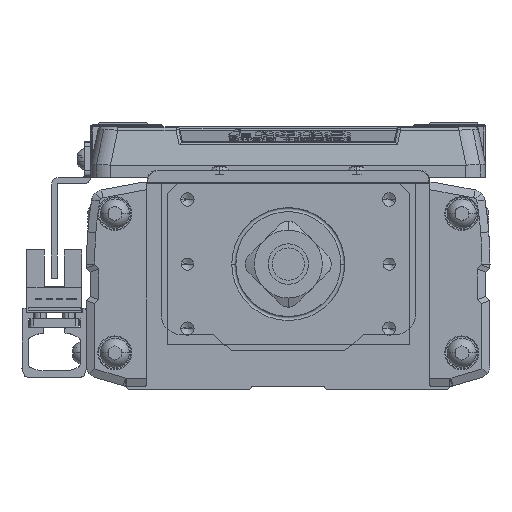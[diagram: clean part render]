
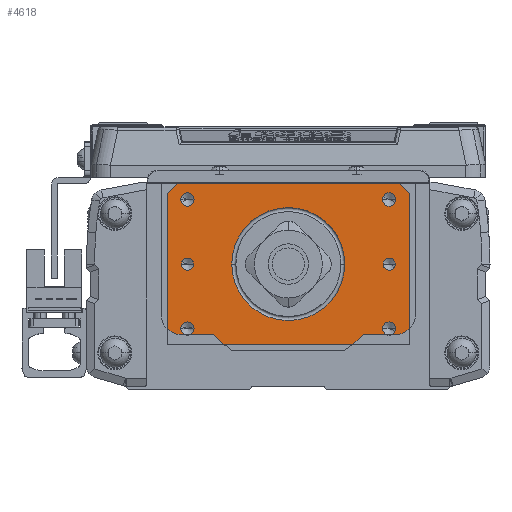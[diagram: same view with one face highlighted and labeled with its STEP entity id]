
A CAD part, left-side view. The second image highlights one B-rep face of the part: STEP entity #4618.
In plain terms, the highlighted planar face has unit normal (-1, 0, 0).
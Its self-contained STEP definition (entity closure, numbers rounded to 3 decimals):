
#4618=ADVANCED_FACE('',(#10566,#10567,#10568,#10569,#10570,#10571,#10572,#10573),#10574,.T.);
#10566=FACE_BOUND('',#18283,.T.);
#10567=FACE_BOUND('',#18284,.T.);
#10568=FACE_BOUND('',#18285,.T.);
#10569=FACE_BOUND('',#18286,.T.);
#10570=FACE_BOUND('',#18287,.T.);
#10571=FACE_BOUND('',#18288,.T.);
#10572=FACE_BOUND('',#18289,.T.);
#10573=FACE_OUTER_BOUND('',#18290,.T.);
#10574=PLANE('',#18291);
#18283=EDGE_LOOP('',(#31511,#31512));
#18284=EDGE_LOOP('',(#31513,#31514));
#18285=EDGE_LOOP('',(#31515,#31516));
#18286=EDGE_LOOP('',(#31517,#31518));
#18287=EDGE_LOOP('',(#31519,#31520));
#18288=EDGE_LOOP('',(#31521,#31522));
#18289=EDGE_LOOP('',(#31523,#31524,#31525));
#18290=EDGE_LOOP('',(#31526,#31527,#31528,#31529,#31530,#31531));
#18291=AXIS2_PLACEMENT_3D('',#31532,#31533,#31534);
#31511=ORIENTED_EDGE('',*,*,#49326,.T.);
#31512=ORIENTED_EDGE('',*,*,#49327,.T.);
#31513=ORIENTED_EDGE('',*,*,#49328,.T.);
#31514=ORIENTED_EDGE('',*,*,#49295,.T.);
#31515=ORIENTED_EDGE('',*,*,#49329,.T.);
#31516=ORIENTED_EDGE('',*,*,#49330,.T.);
#31517=ORIENTED_EDGE('',*,*,#49331,.T.);
#31518=ORIENTED_EDGE('',*,*,#45207,.T.);
#31519=ORIENTED_EDGE('',*,*,#49332,.T.);
#31520=ORIENTED_EDGE('',*,*,#48477,.T.);
#31521=ORIENTED_EDGE('',*,*,#49333,.T.);
#31522=ORIENTED_EDGE('',*,*,#49334,.T.);
#31523=ORIENTED_EDGE('',*,*,#45744,.T.);
#31524=ORIENTED_EDGE('',*,*,#49335,.T.);
#31525=ORIENTED_EDGE('',*,*,#45745,.T.);
#31526=ORIENTED_EDGE('',*,*,#49336,.F.);
#31527=ORIENTED_EDGE('',*,*,#49337,.F.);
#31528=ORIENTED_EDGE('',*,*,#49338,.T.);
#31529=ORIENTED_EDGE('',*,*,#47609,.T.);
#31530=ORIENTED_EDGE('',*,*,#49339,.F.);
#31531=ORIENTED_EDGE('',*,*,#49340,.T.);
#31532=CARTESIAN_POINT('',(-580.,0.,-20.));
#31533=DIRECTION('',(-1.0,0.,0.));
#31534=DIRECTION('',(0.,-1.0,0.));
#45207=EDGE_CURVE('',#54105,#54102,#54106,.T.);
#45744=EDGE_CURVE('',#55067,#55065,#55068,.T.);
#45745=EDGE_CURVE('',#55069,#55067,#55070,.T.);
#47609=EDGE_CURVE('',#58195,#58192,#58196,.T.);
#48477=EDGE_CURVE('',#59549,#59546,#59550,.T.);
#49295=EDGE_CURVE('',#60776,#60773,#60777,.T.);
#49326=EDGE_CURVE('',#60823,#60824,#60825,.T.);
#49327=EDGE_CURVE('',#60824,#60823,#60826,.T.);
#49328=EDGE_CURVE('',#60773,#60776,#60827,.T.);
#49329=EDGE_CURVE('',#60828,#60829,#60830,.T.);
#49330=EDGE_CURVE('',#60829,#60828,#60831,.T.);
#49331=EDGE_CURVE('',#54102,#54105,#60832,.T.);
#49332=EDGE_CURVE('',#59546,#59549,#60833,.T.);
#49333=EDGE_CURVE('',#60834,#60835,#60836,.T.);
#49334=EDGE_CURVE('',#60835,#60834,#60837,.T.);
#49335=EDGE_CURVE('',#55065,#55069,#60838,.T.);
#49336=EDGE_CURVE('',#60839,#60840,#60841,.T.);
#49337=EDGE_CURVE('',#60842,#60839,#60843,.T.);
#49338=EDGE_CURVE('',#60842,#58195,#60844,.T.);
#49339=EDGE_CURVE('',#60845,#58192,#60846,.T.);
#49340=EDGE_CURVE('',#60845,#60840,#60847,.T.);
#54102=VERTEX_POINT('',#66825);
#54105=VERTEX_POINT('',#66829);
#54106=CIRCLE('',#66830,1.65);
#55065=VERTEX_POINT('',#68158);
#55067=VERTEX_POINT('',#68160);
#55068=CIRCLE('',#68161,14.0);
#55069=VERTEX_POINT('',#68162);
#55070=CIRCLE('',#68163,14.0);
#58192=VERTEX_POINT('',#72531);
#58195=VERTEX_POINT('',#72535);
#58196=LINE('',#72536,#72537);
#59546=VERTEX_POINT('',#74601);
#59549=VERTEX_POINT('',#74605);
#59550=CIRCLE('',#74606,1.65);
#60773=VERTEX_POINT('',#76304);
#60776=VERTEX_POINT('',#76308);
#60777=CIRCLE('',#76309,1.5);
#60823=VERTEX_POINT('',#76375);
#60824=VERTEX_POINT('',#76376);
#60825=CIRCLE('',#76377,1.5);
#60826=CIRCLE('',#76378,1.5);
#60827=CIRCLE('',#76379,1.5);
#60828=VERTEX_POINT('',#76380);
#60829=VERTEX_POINT('',#76381);
#60830=CIRCLE('',#76382,1.65);
#60831=CIRCLE('',#76383,1.65);
#60832=CIRCLE('',#76384,1.65);
#60833=CIRCLE('',#76385,1.65);
#60834=VERTEX_POINT('',#76386);
#60835=VERTEX_POINT('',#76387);
#60836=CIRCLE('',#76388,1.65);
#60837=CIRCLE('',#76389,1.65);
#60838=CIRCLE('',#76390,14.0);
#60839=VERTEX_POINT('',#76391);
#60840=VERTEX_POINT('',#76392);
#60841=LINE('',#76393,#76394);
#60842=VERTEX_POINT('',#76395);
#60843=LINE('',#76396,#76397);
#60844=LINE('',#76398,#76399);
#60845=VERTEX_POINT('',#76400);
#60846=LINE('',#76401,#76402);
#60847=LINE('',#76403,#76404);
#66825=CARTESIAN_POINT('',(-580.,26.65,-16.));
#66829=CARTESIAN_POINT('',(-580.,23.35,-16.));
#66830=AXIS2_PLACEMENT_3D('',#83470,#83471,#83472);
#68158=CARTESIAN_POINT('',(-580.,14.,0.));
#68160=CARTESIAN_POINT('',(-580.,0.,-14.));
#68161=AXIS2_PLACEMENT_3D('',#84205,#84206,#84207);
#68162=CARTESIAN_POINT('',(-580.,-14.,0.));
#68163=AXIS2_PLACEMENT_3D('',#84208,#84209,#84210);
#72531=CARTESIAN_POINT('',(-580.,-30.,17.5));
#72535=CARTESIAN_POINT('',(-580.,-30.,-20.));
#72536=CARTESIAN_POINT('',(-580.,-30.,-20.));
#72537=VECTOR('',#86782,10.0);
#74601=CARTESIAN_POINT('',(-580.,26.65,16.));
#74605=CARTESIAN_POINT('',(-580.,23.35,16.));
#74606=AXIS2_PLACEMENT_3D('',#87901,#87902,#87903);
#76304=CARTESIAN_POINT('',(-580.,26.5,0.));
#76308=CARTESIAN_POINT('',(-580.,23.5,0.));
#76309=AXIS2_PLACEMENT_3D('',#88976,#88977,#88978);
#76375=CARTESIAN_POINT('',(-580.,-26.5,0.));
#76376=CARTESIAN_POINT('',(-580.,-23.5,0.));
#76377=AXIS2_PLACEMENT_3D('',#89005,#89006,#89007);
#76378=AXIS2_PLACEMENT_3D('',#89008,#89009,#89010);
#76379=AXIS2_PLACEMENT_3D('',#89011,#89012,#89013);
#76380=CARTESIAN_POINT('',(-580.,-26.65,-16.));
#76381=CARTESIAN_POINT('',(-580.,-23.35,-16.));
#76382=AXIS2_PLACEMENT_3D('',#89014,#89015,#89016);
#76383=AXIS2_PLACEMENT_3D('',#89017,#89018,#89019);
#76384=AXIS2_PLACEMENT_3D('',#89020,#89021,#89022);
#76385=AXIS2_PLACEMENT_3D('',#89023,#89024,#89025);
#76386=CARTESIAN_POINT('',(-580.,-26.65,16.));
#76387=CARTESIAN_POINT('',(-580.,-23.35,16.));
#76388=AXIS2_PLACEMENT_3D('',#89026,#89027,#89028);
#76389=AXIS2_PLACEMENT_3D('',#89029,#89030,#89031);
#76390=AXIS2_PLACEMENT_3D('',#89032,#89033,#89034);
#76391=CARTESIAN_POINT('',(-580.,30.,17.5));
#76392=CARTESIAN_POINT('',(-580.,27.5,20.));
#76393=CARTESIAN_POINT('',(-580.,31.25,16.25));
#76394=VECTOR('',#89035,10.);
#76395=CARTESIAN_POINT('',(-580.,30.,-20.));
#76396=CARTESIAN_POINT('',(-580.,30.,-20.));
#76397=VECTOR('',#89036,10.0);
#76398=CARTESIAN_POINT('',(-580.,30.,-20.));
#76399=VECTOR('',#89037,10.0);
#76400=CARTESIAN_POINT('',(-580.,-27.5,20.));
#76401=CARTESIAN_POINT('',(-580.,-31.25,16.25));
#76402=VECTOR('',#89038,10.);
#76403=CARTESIAN_POINT('',(-580.,30.,20.));
#76404=VECTOR('',#89039,10.0);
#83470=CARTESIAN_POINT('',(-580.,25.,-16.));
#83471=DIRECTION('',(1.0,0.,0.));
#83472=DIRECTION('',(0.,1.0,0.));
#84205=CARTESIAN_POINT('',(-580.,0.,0.));
#84206=DIRECTION('',(1.0,0.,0.));
#84207=DIRECTION('',(0.,0.,1.0));
#84208=CARTESIAN_POINT('',(-580.,0.,0.));
#84209=DIRECTION('',(1.0,0.,0.));
#84210=DIRECTION('',(0.,0.,1.0));
#86782=DIRECTION('',(0.,0.,1.0));
#87901=CARTESIAN_POINT('',(-580.,25.,16.));
#87902=DIRECTION('',(1.0,0.,0.));
#87903=DIRECTION('',(0.,1.0,0.));
#88976=CARTESIAN_POINT('',(-580.,25.,0.));
#88977=DIRECTION('',(1.0,0.,0.));
#88978=DIRECTION('',(0.,1.0,0.));
#89005=CARTESIAN_POINT('',(-580.,-25.,0.));
#89006=DIRECTION('',(1.0,0.,0.));
#89007=DIRECTION('',(0.,-1.0,0.));
#89008=CARTESIAN_POINT('',(-580.,-25.,0.));
#89009=DIRECTION('',(1.0,0.,0.));
#89010=DIRECTION('',(0.,-1.0,0.));
#89011=CARTESIAN_POINT('',(-580.,25.,0.));
#89012=DIRECTION('',(1.0,0.,0.));
#89013=DIRECTION('',(0.,1.0,0.));
#89014=CARTESIAN_POINT('',(-580.,-25.,-16.));
#89015=DIRECTION('',(1.0,0.,0.));
#89016=DIRECTION('',(0.,-1.0,0.));
#89017=CARTESIAN_POINT('',(-580.,-25.,-16.));
#89018=DIRECTION('',(1.0,0.,0.));
#89019=DIRECTION('',(0.,-1.0,0.));
#89020=CARTESIAN_POINT('',(-580.,25.,-16.));
#89021=DIRECTION('',(1.0,0.,0.));
#89022=DIRECTION('',(0.,1.0,0.));
#89023=CARTESIAN_POINT('',(-580.,25.,16.));
#89024=DIRECTION('',(1.0,0.,0.));
#89025=DIRECTION('',(0.,1.0,0.));
#89026=CARTESIAN_POINT('',(-580.,-25.,16.));
#89027=DIRECTION('',(1.0,0.,0.));
#89028=DIRECTION('',(0.,-1.0,0.));
#89029=CARTESIAN_POINT('',(-580.,-25.,16.));
#89030=DIRECTION('',(1.0,0.,0.));
#89031=DIRECTION('',(0.,-1.0,0.));
#89032=CARTESIAN_POINT('',(-580.,0.,0.));
#89033=DIRECTION('',(1.0,0.,0.));
#89034=DIRECTION('',(0.,0.,1.0));
#89035=DIRECTION('',(0.,-0.707,0.707));
#89036=DIRECTION('',(0.,0.,1.0));
#89037=DIRECTION('',(0.,-1.0,0.));
#89038=DIRECTION('',(0.0,-0.707,-0.707));
#89039=DIRECTION('',(0.,1.0,0.));
